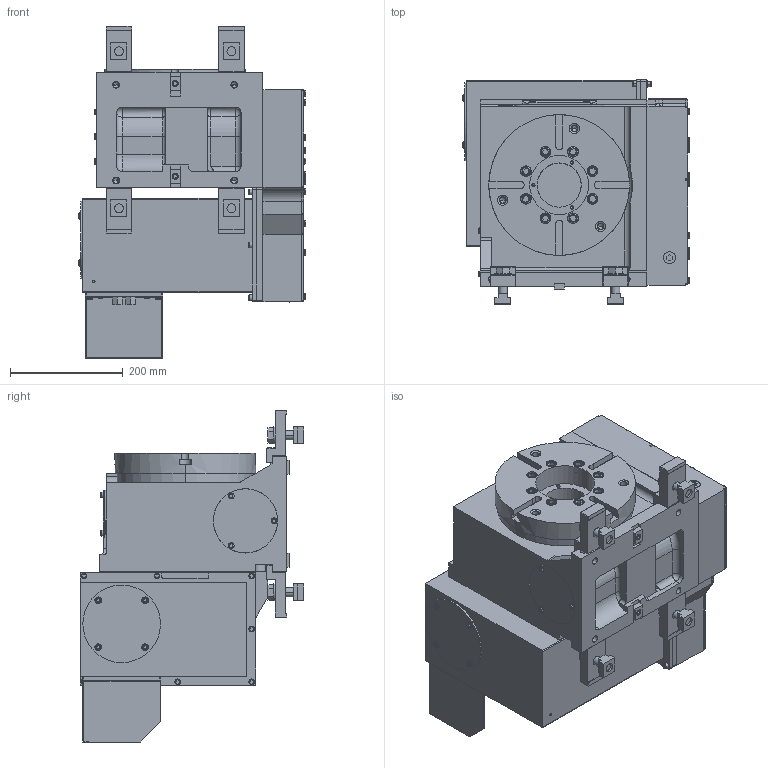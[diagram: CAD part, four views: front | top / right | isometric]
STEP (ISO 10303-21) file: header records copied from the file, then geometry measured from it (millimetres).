
FILE_DESCRIPTION (( 'STEP AP214' ), '1' );
FILE_NAME ('TBX250BF.STEP', '2019-12-26T04:36:56', ( '' ), ( '' ), 'SwSTEP 2.0', 'SolidWorks 2017', '' );
FILE_SCHEMA (( 'AUTOMOTIVE_DESIGN' ));
Length unit declared in the file: millimetre
Products named in the file (14): キタガワシール; SMC KQ2E06-02; コネクタカバー（61E3639910）; コネクタプレート(61E459903); 僇僶乕丂俹(61E4458433)MR250RAM01; モータケース(61E260360)TBX250BF01; フランジ(61E3743150)TBX250BE01; TBX250B01僋儈僞僥(61E112171); ギヤーボックス(61E1130632)TBX250B01; テーブル(61E3647071)TMX250H00; 儂儞僞僀ASSY(61E1121705)TBX250B01; TBX250BF; CLAMPING PARTS(61E442122)結合; TBX250BF01儂儞僞僀
Assembly tree (17 placements, depth 4):
  TBX250BF
    TBX250BF01儂儞僞僀
      TBX250B01僋儈僞僥(61E112171)
        儂儞僞僀ASSY(61E1121705)TBX250B01
        テーブル(61E3647071)TMX250H00
        ギヤーボックス(61E1130632)TBX250B01
      フランジ(61E3743150)TBX250BE01
      モータケース(61E260360)TBX250BF01
      僇僶乕丂俹(61E4458433)MR250RAM01
      コネクタプレート(61E459903)
      コネクタカバー（61E3639910）
      SMC KQ2E06-02  x2
      キタガワシール
    CLAMPING PARTS(61E442122)結合  x4
Bounding box: 405.1 x 398 x 590 mm (x, y, z)
Volume: 41071158.3 mm3; surface area: 1874606.4 mm2
Topology: 15 solids, 15 shells, 3329 faces, 8624 edges, 5618 vertices
Faces by surface type: plane 2349, cylinder 715, cone 174, torus 84, sphere 6, bspline 1
Entity records: 108984 total; most frequent: CARTESIAN_POINT 16974, ORIENTED_EDGE 16246, DIRECTION 16092, EDGE_CURVE 8123, VECTOR 6452, LINE 6452, VERTEX_POINT 5338, AXIS2_PLACEMENT_3D 4820
